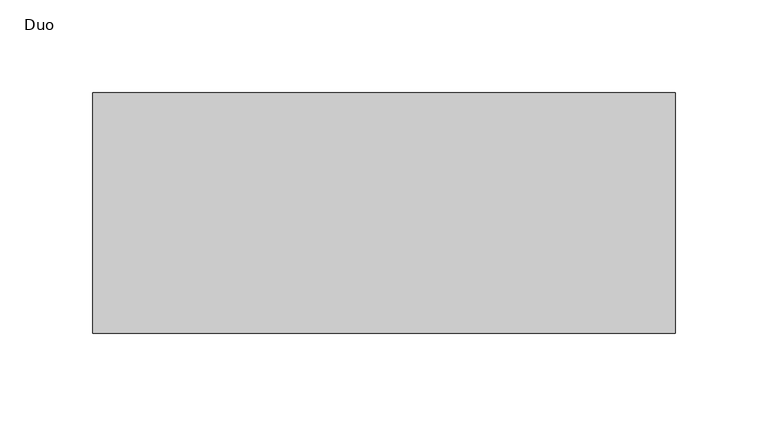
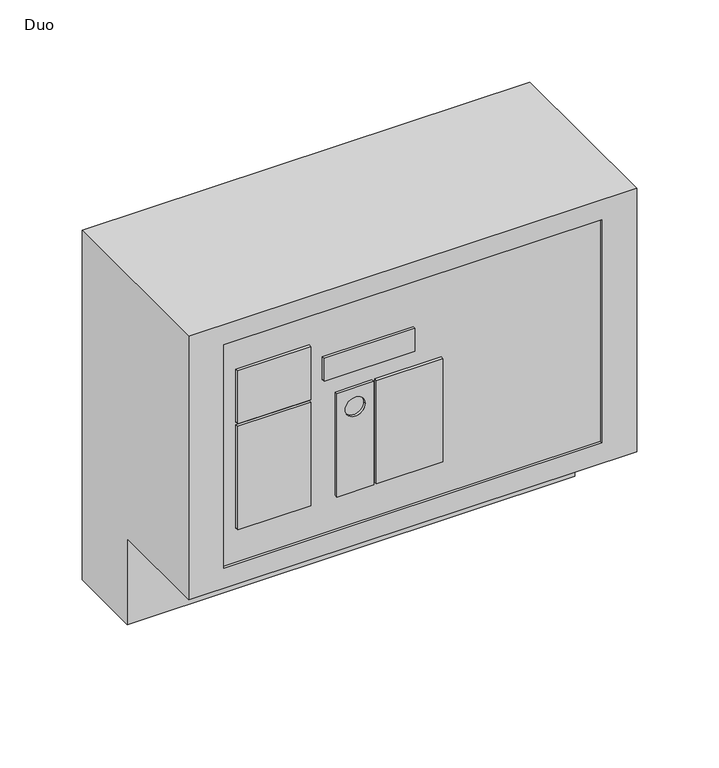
"""IFC4 building model written with IfcOpenShell, lengths in millimetres: electric distribution board geometry, EE_UN_controls muliflex_ACO : Duo."""

from ifc_helpers import new_model, si_unit, frame, origin, place, context, project, spatial, polyline, circle_curve, source, transform, mapped, element, save
from ifc_brep_helpers import plane_surface, revolved_surface, advanced_brep


def duo_03331a0b(model_context):
    return source(origin(), model_context, "Body", "AdvancedBrep", [
        advanced_brep(
        [(157.5, -130.0, 260.0), (157.5, -130.0, 64.0), (157.5, -55.0, 64.0), (157.5, -55.0, 0.0), (157.5, 0.0, 0.0), (157.5, 0.0, 260.0), (-157.5, -130.0, 260.0), (-157.5, 0.0, 260.0), (-157.5, 0.0, 0.0), (-157.5, -55.0, 0.0), (-157.5, -55.0, 64.0), (-157.5, -130.0, 64.0), (133.0, -130.0, 245.0), (133.0, -130.0, 79.0), (-133.0, -130.0, 79.0), (-133.0, -130.0, 245.0), (-27.5089333, -130.0, 180.9172198), (-53.4277281, -130.0, 180.9172198), (-53.4277281, -130.0, 104.0554819), (-27.5089333, -130.0, 104.0554819), (-47.455783, -130.0, 166.739445), (-33.455783, -130.0, 166.739445), (21.2517745, -130.0, 180.9172198), (-25.6425516, -130.0, 180.9172198), (-25.6425516, -130.0, 104.0554819), (21.2517745, -130.0, 104.0554819), (1.6055878, -130.0, 210.3073488), (-62.2651466, -130.0, 210.3073488), (-62.2651466, -130.0, 193.0977075), (1.6055878, -130.0, 193.0977075), (-71.6816323, -130.0, 222.3419366), (-123.1255546, -130.0, 222.3419366), (-123.1255546, -130.0, 182.8354503), (-71.6816323, -130.0, 182.8354503), (-71.6816323, -130.0, 180.9172198), (-123.1255546, -130.0, 180.9172198), (-123.1255546, -130.0, 104.0554819), (-71.6816323, -130.0, 104.0554819), (133.0, -128.0, 245.0), (-133.0, -128.0, 245.0), (-133.0, -128.0, 79.0), (133.0, -128.0, 79.0), (-27.5089333, -128.0, 180.9172198), (-27.5089333, -128.0, 104.0554819), (-53.4277281, -128.0, 104.0554819), (-53.4277281, -128.0, 180.9172198), (21.2517745, -128.0, 180.9172198), (21.2517745, -128.0, 104.0554819), (-25.6425516, -128.0, 104.0554819), (-25.6425516, -128.0, 180.9172198), (1.6055878, -128.0, 210.3073488), (1.6055878, -128.0, 193.0977075), (-62.2651466, -128.0, 193.0977075), (-62.2651466, -128.0, 210.3073488), (-71.6816323, -128.0, 222.3419366), (-71.6816323, -128.0, 182.8354503), (-123.1255546, -128.0, 182.8354503), (-123.1255546, -128.0, 222.3419366), (-71.6816323, -128.0, 180.9172198), (-71.6816323, -128.0, 104.0554819), (-123.1255546, -128.0, 104.0554819), (-123.1255546, -128.0, 180.9172198), (-47.455783, -128.0, 166.739445), (-33.455783, -128.0, 166.739445)],
        [
            (0, 1),
            (1, 2),
            (2, 3),
            (3, 4),
            (4, 5),
            (5, 0),
            (6, 7),
            (7, 8),
            (8, 9),
            (9, 10),
            (10, 11),
            (11, 6),
            (0, 6),
            (11, 1),
            (12, 13),
            (13, 14),
            (14, 15),
            (15, 12),
            (16, 17),
            (17, 18),
            (18, 19),
            (19, 16),
            (20, 21, circle_curve(frame((-40.455783, -130.0, 166.739445), z_axis=(0.0, 1.0, 0.0), x_axis=(1.0, 0.0, 0.0)), 7.0)),
            (21, 20, circle_curve(frame((-40.455783, -130.0, 166.739445), z_axis=(0.0, 1.0, 0.0), x_axis=(1.0, 0.0, 0.0)), 7.0)),
            (22, 23),
            (23, 24),
            (24, 25),
            (25, 22),
            (26, 27),
            (27, 28),
            (28, 29),
            (29, 26),
            (30, 31),
            (31, 32),
            (32, 33),
            (33, 30),
            (34, 35),
            (35, 36),
            (36, 37),
            (37, 34),
            (10, 2),
            (9, 3),
            (8, 4),
            (7, 5),
            (38, 39),
            (39, 40),
            (40, 41),
            (41, 38),
            (42, 43),
            (43, 44),
            (44, 45),
            (45, 42),
            (46, 47),
            (47, 48),
            (48, 49),
            (49, 46),
            (50, 51),
            (51, 52),
            (52, 53),
            (53, 50),
            (54, 55),
            (55, 56),
            (56, 57),
            (57, 54),
            (58, 59),
            (59, 60),
            (60, 61),
            (61, 58),
            (62, 63, circle_curve(frame((-40.455783, -128.0, 166.739445), z_axis=(0.0, -1.0, 0.0), x_axis=(1.0, 0.0, 0.0)), 7.0)),
            (63, 62, circle_curve(frame((-40.455783, -128.0, 166.739445), z_axis=(0.0, -1.0, 0.0), x_axis=(1.0, 0.0, 0.0)), 7.0)),
            (41, 13),
            (12, 38),
            (40, 14),
            (39, 15),
            (45, 17),
            (16, 42),
            (44, 18),
            (43, 19),
            (49, 23),
            (22, 46),
            (48, 24),
            (47, 25),
            (53, 27),
            (26, 50),
            (52, 28),
            (51, 29),
            (57, 31),
            (30, 54),
            (56, 32),
            (55, 33),
            (61, 35),
            (34, 58),
            (60, 36),
            (59, 37),
            (63, 21),
            (20, 62),
        ],
        [
            plane_surface(frame((157.5, 0.0, 0.0), z_axis=(1.0, 0.0, 0.0), x_axis=(0.0, 0.0, 1.0))),
            plane_surface(frame((-157.5, 0.0, 0.0), z_axis=(-1.0, 0.0, 0.0), x_axis=(0.0, 0.0, 1.0))),
            plane_surface(frame((157.5, -130.0, 260.0), z_axis=(0.0, -1.0, 0.0), x_axis=(-1.0, 0.0, 0.0))),
            plane_surface(frame((157.5, -130.0, 64.0), z_axis=(0.0, 0.0, -1.0), x_axis=(-1.0, 0.0, 0.0))),
            plane_surface(frame((157.5, -55.0, 64.0), z_axis=(0.0, -1.0, 0.0), x_axis=(-1.0, 0.0, 0.0))),
            plane_surface(frame((157.5, -55.0, 0.0), z_axis=(0.0, 0.0, -1.0), x_axis=(-1.0, 0.0, 0.0))),
            plane_surface(frame((157.5, 0.0, 0.0), z_axis=(0.0, 1.0, 0.0), x_axis=(-1.0, 0.0, 0.0))),
            plane_surface(frame((157.5, 0.0, 260.0), z_axis=(0.0, 0.0, 1.0), x_axis=(-1.0, 0.0, 0.0))),
            plane_surface(frame((0.0, -128.0, 0.0), z_axis=(0.0, -1.0, 0.0), x_axis=(0.0, 0.0, 1.0))),
            plane_surface(frame((133.0, -130.0, 79.0), z_axis=(-1.0, 0.0, 0.0), x_axis=(0.0, 1.0, 0.0))),
            plane_surface(frame((-133.0, -130.0, 79.0), z_axis=(0.0, 0.0, 1.0), x_axis=(0.0, 1.0, 0.0))),
            plane_surface(frame((-133.0, -130.0, 245.0), z_axis=(1.0, 0.0, 0.0), x_axis=(0.0, 1.0, 0.0))),
            plane_surface(frame((133.0, -130.0, 245.0), z_axis=(0.0, 0.0, -1.0), x_axis=(0.0, 1.0, 0.0))),
            plane_surface(frame((-53.4277281, -130.0, 180.9172198), z_axis=(0.0, 0.0, 1.0), x_axis=(0.0, 1.0, 0.0))),
            plane_surface(frame((-53.4277281, -130.0, 104.0554819), z_axis=(-1.0, 0.0, 0.0), x_axis=(0.0, 1.0, 0.0))),
            plane_surface(frame((-27.5089333, -130.0, 104.0554819), z_axis=(0.0, 0.0, -1.0), x_axis=(0.0, 1.0, 0.0))),
            plane_surface(frame((-27.5089333, -130.0, 180.9172198), z_axis=(1.0, 0.0, 0.0), x_axis=(0.0, 1.0, 0.0))),
            plane_surface(frame((-25.6425516, -130.0, 180.9172198), z_axis=(0.0, 0.0, 1.0), x_axis=(0.0, 1.0, 0.0))),
            plane_surface(frame((-25.6425516, -130.0, 104.0554819), z_axis=(-1.0, 0.0, 0.0), x_axis=(0.0, 1.0, 0.0))),
            plane_surface(frame((21.2517745, -130.0, 104.0554819), z_axis=(0.0, 0.0, -1.0), x_axis=(0.0, 1.0, 0.0))),
            plane_surface(frame((21.2517745, -130.0, 180.9172198), z_axis=(1.0, 0.0, 0.0), x_axis=(0.0, 1.0, 0.0))),
            plane_surface(frame((-62.2651466, -130.0, 210.3073488), z_axis=(0.0, 0.0, 1.0), x_axis=(0.0, 1.0, 0.0))),
            plane_surface(frame((-62.2651466, -130.0, 193.0977075), z_axis=(-1.0, 0.0, 0.0), x_axis=(0.0, 1.0, 0.0))),
            plane_surface(frame((1.6055878, -130.0, 193.0977075), z_axis=(0.0, 0.0, -1.0), x_axis=(0.0, 1.0, 0.0))),
            plane_surface(frame((1.6055878, -130.0, 210.3073488), z_axis=(1.0, 0.0, 0.0), x_axis=(0.0, 1.0, 0.0))),
            plane_surface(frame((-123.1255546, -130.0, 222.3419366), z_axis=(0.0, 0.0, 1.0), x_axis=(0.0, 1.0, 0.0))),
            plane_surface(frame((-123.1255546, -130.0, 182.8354503), z_axis=(-1.0, 0.0, 0.0), x_axis=(0.0, 1.0, 0.0))),
            plane_surface(frame((-71.6816323, -130.0, 182.8354503), z_axis=(0.0, 0.0, -1.0), x_axis=(0.0, 1.0, 0.0))),
            plane_surface(frame((-71.6816323, -130.0, 222.3419366), z_axis=(1.0, 0.0, 0.0), x_axis=(0.0, 1.0, 0.0))),
            plane_surface(frame((-123.1255546, -130.0, 180.9172198), z_axis=(0.0, 0.0, 1.0), x_axis=(0.0, 1.0, 0.0))),
            plane_surface(frame((-123.1255546, -130.0, 104.0554819), z_axis=(-1.0, 0.0, 0.0), x_axis=(0.0, 1.0, 0.0))),
            plane_surface(frame((-71.6816323, -130.0, 104.0554819), z_axis=(0.0, 0.0, -1.0), x_axis=(0.0, 1.0, 0.0))),
            plane_surface(frame((-71.6816323, -130.0, 180.9172198), z_axis=(1.0, 0.0, 0.0), x_axis=(0.0, 1.0, 0.0))),
            revolved_surface(polyline([(-33.455783, -130.0, 166.739445), (-33.455783, -128.0, 166.739445)]), (-40.455783, -130.0, 166.739445), (0.0, -1.0, 0.0)),
        ],
        [
            (0, [[1, 2, 3, 4, 5, 6]]),
            (1, [[7, 8, 9, 10, 11, 12]]),
            (2, [[-1, 13, -12, 14], [15, 16, 17, 18]]),
            (2, [[19, 20, 21, 22], [23, 24]]),
            (2, [[25, 26, 27, 28]]),
            (2, [[29, 30, 31, 32]]),
            (2, [[33, 34, 35, 36]]),
            (2, [[37, 38, 39, 40]]),
            (3, [[-2, -14, -11, 41]]),
            (4, [[-3, -41, -10, 42]]),
            (5, [[-4, -42, -9, 43]]),
            (6, [[-5, -43, -8, 44]]),
            (7, [[-6, -44, -7, -13]]),
            (8, [[45, 46, 47, 48], [49, 50, 51, 52], [53, 54, 55, 56], [57, 58, 59, 60], [61, 62, 63, 64], [65, 66, 67, 68]]),
            (8, [[69, 70]]),
            (9, [[-48, 71, -15, 72]]),
            (10, [[-47, 73, -16, -71]]),
            (11, [[-46, 74, -17, -73]]),
            (12, [[-45, -72, -18, -74]]),
            (13, [[-52, 75, -19, 76]]),
            (14, [[-51, 77, -20, -75]]),
            (15, [[-50, 78, -21, -77]]),
            (16, [[-49, -76, -22, -78]]),
            (17, [[-56, 79, -25, 80]]),
            (18, [[-55, 81, -26, -79]]),
            (19, [[-54, 82, -27, -81]]),
            (20, [[-53, -80, -28, -82]]),
            (21, [[-60, 83, -29, 84]]),
            (22, [[-59, 85, -30, -83]]),
            (23, [[-58, 86, -31, -85]]),
            (24, [[-57, -84, -32, -86]]),
            (25, [[-64, 87, -33, 88]]),
            (26, [[-63, 89, -34, -87]]),
            (27, [[-62, 90, -35, -89]]),
            (28, [[-61, -88, -36, -90]]),
            (29, [[-68, 91, -37, 92]]),
            (30, [[-67, 93, -38, -91]]),
            (31, [[-66, 94, -39, -93]]),
            (32, [[-65, -92, -40, -94]]),
            (33, [[-70, 95, -23, 96]]),
            (33, [[-69, -96, -24, -95]]),
        ],
    ),
    ])


if __name__ == "__main__":
    model = new_model("IFC4")
    model_context = context("Model", 3, world=origin())
    ifc_project = project(units=[si_unit("LENGTHUNIT", "METRE", prefix="MILLI")], contexts=[model_context])
    site = spatial("IfcSite", under=ifc_project)
    building = spatial("IfcBuilding", under=site)
    placement = place(None, origin())
    duo_shape = duo_03331a0b(model_context)
    element("IfcElectricDistributionBoard", 1, ObjectType="EE_UN_controls muliflex_ACO : Duo", at=placement, inside=building, context=model_context, shape_type="MappedRepresentation", body=[
        mapped(duo_shape, transform((0.0, 0.0, 0.0), x_axis=(1.0, 0.0, 0.0), y_axis=(0.0, 1.0, 0.0), z_axis=(0.0, 0.0, 1.0))),
    ])
    save(model, "model.ifc")
